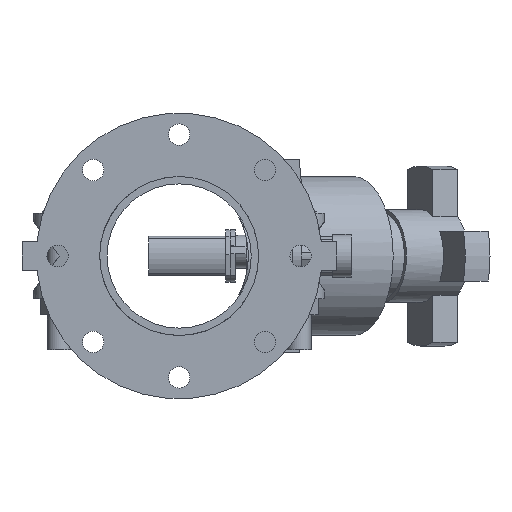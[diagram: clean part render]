
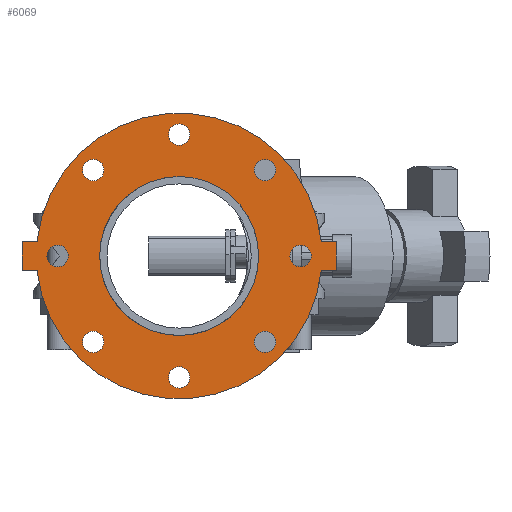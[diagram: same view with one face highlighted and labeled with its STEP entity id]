
A CAD part, front view. The second image highlights one B-rep face of the part: STEP entity #6069.
In plain terms, the highlighted planar face has unit normal (0, -1, 0) as drawn and (0, 0, 1) by its records, which use the part's own axes.
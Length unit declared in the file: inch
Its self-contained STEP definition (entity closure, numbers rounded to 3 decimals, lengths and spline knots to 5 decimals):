
#165=FACE_BOUND('',#771,.T.);
#166=FACE_BOUND('',#772,.T.);
#167=FACE_BOUND('',#773,.T.);
#168=FACE_BOUND('',#774,.T.);
#169=FACE_BOUND('',#775,.T.);
#170=FACE_BOUND('',#776,.T.);
#171=FACE_BOUND('',#777,.T.);
#172=FACE_BOUND('',#778,.T.);
#173=FACE_BOUND('',#779,.T.);
#230=PLANE('',#6592);
#433=FACE_OUTER_BOUND('',#770,.T.);
#770=EDGE_LOOP('',(#3949,#3950,#3951,#3952,#3953,#3954,#3955,#3956));
#771=EDGE_LOOP('',(#3957));
#772=EDGE_LOOP('',(#3958));
#773=EDGE_LOOP('',(#3959));
#774=EDGE_LOOP('',(#3960));
#775=EDGE_LOOP('',(#3961));
#776=EDGE_LOOP('',(#3962));
#777=EDGE_LOOP('',(#3963));
#778=EDGE_LOOP('',(#3964));
#779=EDGE_LOOP('',(#3965,#3966));
#1158=LINE('',#9234,#1622);
#1159=LINE('',#9237,#1623);
#1162=LINE('',#9242,#1626);
#1163=LINE('',#9245,#1627);
#1165=LINE('',#9248,#1629);
#1166=LINE('',#9250,#1630);
#1622=VECTOR('',#7356,0.3937);
#1623=VECTOR('',#7359,0.3937);
#1626=VECTOR('',#7364,0.3937);
#1627=VECTOR('',#7367,0.3937);
#1629=VECTOR('',#7371,0.3937);
#1630=VECTOR('',#7374,0.3937);
#2066=CIRCLE('',#6551,0.375);
#2068=CIRCLE('',#6554,0.375);
#2070=CIRCLE('',#6557,0.375);
#2072=CIRCLE('',#6560,0.375);
#2074=CIRCLE('',#6563,0.375);
#2076=CIRCLE('',#6566,0.375);
#2078=CIRCLE('',#6569,0.375);
#2080=CIRCLE('',#6572,0.375);
#2086=CIRCLE('',#6580,5.);
#2087=CIRCLE('',#6582,2.7815);
#2088=CIRCLE('',#6583,2.7815);
#2089=CIRCLE('',#6585,5.);
#2404=VERTEX_POINT('',#9145);
#2406=VERTEX_POINT('',#9151);
#2408=VERTEX_POINT('',#9157);
#2410=VERTEX_POINT('',#9163);
#2412=VERTEX_POINT('',#9169);
#2414=VERTEX_POINT('',#9175);
#2416=VERTEX_POINT('',#9181);
#2418=VERTEX_POINT('',#9187);
#2430=VERTEX_POINT('',#9214);
#2431=VERTEX_POINT('',#9216);
#2432=VERTEX_POINT('',#9220);
#2433=VERTEX_POINT('',#9222);
#2434=VERTEX_POINT('',#9226);
#2435=VERTEX_POINT('',#9228);
#2436=VERTEX_POINT('',#9232);
#2437=VERTEX_POINT('',#9236);
#2438=VERTEX_POINT('',#9240);
#2439=VERTEX_POINT('',#9244);
#2990=EDGE_CURVE('',#2404,#2404,#2066,.T.);
#2993=EDGE_CURVE('',#2406,#2406,#2068,.T.);
#2996=EDGE_CURVE('',#2408,#2408,#2070,.T.);
#2999=EDGE_CURVE('',#2410,#2410,#2072,.T.);
#3002=EDGE_CURVE('',#2412,#2412,#2074,.T.);
#3005=EDGE_CURVE('',#2414,#2414,#2076,.T.);
#3008=EDGE_CURVE('',#2416,#2416,#2078,.T.);
#3011=EDGE_CURVE('',#2418,#2418,#2080,.T.);
#3026=EDGE_CURVE('',#2430,#2431,#2086,.T.);
#3028=EDGE_CURVE('',#2433,#2432,#2087,.T.);
#3029=EDGE_CURVE('',#2432,#2433,#2088,.T.);
#3031=EDGE_CURVE('',#2435,#2434,#2089,.T.);
#3034=EDGE_CURVE('',#2431,#2436,#1158,.T.);
#3035=EDGE_CURVE('',#2437,#2435,#1159,.T.);
#3038=EDGE_CURVE('',#2434,#2438,#1162,.T.);
#3039=EDGE_CURVE('',#2439,#2430,#1163,.T.);
#3041=EDGE_CURVE('',#2438,#2439,#1165,.T.);
#3042=EDGE_CURVE('',#2436,#2437,#1166,.T.);
#3949=ORIENTED_EDGE('',*,*,#3038,.T.);
#3950=ORIENTED_EDGE('',*,*,#3041,.T.);
#3951=ORIENTED_EDGE('',*,*,#3039,.T.);
#3952=ORIENTED_EDGE('',*,*,#3026,.T.);
#3953=ORIENTED_EDGE('',*,*,#3034,.T.);
#3954=ORIENTED_EDGE('',*,*,#3042,.T.);
#3955=ORIENTED_EDGE('',*,*,#3035,.T.);
#3956=ORIENTED_EDGE('',*,*,#3031,.T.);
#3957=ORIENTED_EDGE('',*,*,#2990,.T.);
#3958=ORIENTED_EDGE('',*,*,#2993,.T.);
#3959=ORIENTED_EDGE('',*,*,#2996,.T.);
#3960=ORIENTED_EDGE('',*,*,#2999,.T.);
#3961=ORIENTED_EDGE('',*,*,#3002,.T.);
#3962=ORIENTED_EDGE('',*,*,#3005,.T.);
#3963=ORIENTED_EDGE('',*,*,#3008,.T.);
#3964=ORIENTED_EDGE('',*,*,#3011,.T.);
#3965=ORIENTED_EDGE('',*,*,#3028,.T.);
#3966=ORIENTED_EDGE('',*,*,#3029,.T.);
#6069=ADVANCED_FACE('',(#433,#165,#166,#167,#168,#169,#170,#171,#172,#173),
#230,.T.);
#6551=AXIS2_PLACEMENT_3D('',#9146,#7264,#7265);
#6554=AXIS2_PLACEMENT_3D('',#9152,#7271,#7272);
#6557=AXIS2_PLACEMENT_3D('',#9158,#7278,#7279);
#6560=AXIS2_PLACEMENT_3D('',#9164,#7285,#7286);
#6563=AXIS2_PLACEMENT_3D('',#9170,#7292,#7293);
#6566=AXIS2_PLACEMENT_3D('',#9176,#7299,#7300);
#6569=AXIS2_PLACEMENT_3D('',#9182,#7306,#7307);
#6572=AXIS2_PLACEMENT_3D('',#9188,#7313,#7314);
#6580=AXIS2_PLACEMENT_3D('',#9218,#7338,#7339);
#6582=AXIS2_PLACEMENT_3D('',#9223,#7343,#7344);
#6583=AXIS2_PLACEMENT_3D('',#9224,#7345,#7346);
#6585=AXIS2_PLACEMENT_3D('',#9229,#7350,#7351);
#6592=AXIS2_PLACEMENT_3D('',#9251,#7375,#7376);
#7264=DIRECTION('center_axis',(0.,0.,-1.));
#7265=DIRECTION('ref_axis',(-0.707,0.707,0.));
#7271=DIRECTION('center_axis',(0.,0.,-1.));
#7272=DIRECTION('ref_axis',(0.,1.,0.));
#7278=DIRECTION('center_axis',(0.,0.,-1.));
#7279=DIRECTION('ref_axis',(0.707,0.707,0.));
#7285=DIRECTION('center_axis',(0.,0.,-1.));
#7286=DIRECTION('ref_axis',(1.,0.,0.));
#7292=DIRECTION('center_axis',(0.,0.,-1.));
#7293=DIRECTION('ref_axis',(0.707,-0.707,0.));
#7299=DIRECTION('center_axis',(0.,0.,-1.));
#7300=DIRECTION('ref_axis',(0.,-1.,0.));
#7306=DIRECTION('center_axis',(0.,0.,-1.));
#7307=DIRECTION('ref_axis',(-0.707,-0.707,0.));
#7313=DIRECTION('center_axis',(0.,0.,-1.));
#7314=DIRECTION('ref_axis',(-1.,0.,0.));
#7338=DIRECTION('center_axis',(0.,0.,1.));
#7339=DIRECTION('ref_axis',(-1.,0.,0.));
#7343=DIRECTION('center_axis',(0.,0.,-1.));
#7344=DIRECTION('ref_axis',(-1.,0.,0.));
#7345=DIRECTION('center_axis',(0.,0.,-1.));
#7346=DIRECTION('ref_axis',(-1.,0.,0.));
#7350=DIRECTION('center_axis',(0.,0.,1.));
#7351=DIRECTION('ref_axis',(-1.,0.,0.));
#7356=DIRECTION('',(0.,1.,0.));
#7359=DIRECTION('',(0.,-1.,0.));
#7364=DIRECTION('',(0.,-1.,0.));
#7367=DIRECTION('',(0.,1.,0.));
#7371=DIRECTION('',(1.,0.,0.));
#7374=DIRECTION('',(-1.,0.,0.));
#7375=DIRECTION('center_axis',(0.,0.,1.));
#7376=DIRECTION('ref_axis',(1.,0.,0.));
#9145=CARTESIAN_POINT('',(-2.74004,2.74004,0.5));
#9146=CARTESIAN_POINT('Origin',(-3.0052,3.0052,0.5));
#9151=CARTESIAN_POINT('',(0.,3.875,0.5));
#9152=CARTESIAN_POINT('Origin',(0.,4.25,0.5));
#9157=CARTESIAN_POINT('',(2.74004,2.74004,0.5));
#9158=CARTESIAN_POINT('Origin',(3.0052,3.0052,0.5));
#9163=CARTESIAN_POINT('',(3.875,0.,0.5));
#9164=CARTESIAN_POINT('Origin',(4.25,0.,0.5));
#9169=CARTESIAN_POINT('',(2.74004,-2.74004,0.5));
#9170=CARTESIAN_POINT('Origin',(3.0052,-3.0052,0.5));
#9175=CARTESIAN_POINT('',(0.,-3.875,0.5));
#9176=CARTESIAN_POINT('Origin',(0.,-4.25,0.5));
#9181=CARTESIAN_POINT('',(-2.74004,-2.74004,0.5));
#9182=CARTESIAN_POINT('Origin',(-3.0052,-3.0052,0.5));
#9187=CARTESIAN_POINT('',(-3.875,0.,0.5));
#9188=CARTESIAN_POINT('Origin',(-4.25,0.,0.5));
#9214=CARTESIAN_POINT('',(0.5,-4.97494,0.5));
#9216=CARTESIAN_POINT('',(0.5,4.97494,0.5));
#9218=CARTESIAN_POINT('Origin',(0.,0.,0.5));
#9220=CARTESIAN_POINT('',(2.7815,0.,0.5));
#9222=CARTESIAN_POINT('',(0.5,2.73619,0.5));
#9223=CARTESIAN_POINT('Origin',(0.,0.,0.5));
#9224=CARTESIAN_POINT('Origin',(0.,0.,0.5));
#9226=CARTESIAN_POINT('',(-0.5,-4.97494,0.5));
#9228=CARTESIAN_POINT('',(-0.5,4.97494,0.5));
#9229=CARTESIAN_POINT('Origin',(0.,0.,0.5));
#9232=CARTESIAN_POINT('',(0.5,5.5,0.5));
#9234=CARTESIAN_POINT('',(0.5,5.5,0.5));
#9236=CARTESIAN_POINT('',(-0.5,5.5,0.5));
#9237=CARTESIAN_POINT('',(-0.5,-5.5,0.5));
#9240=CARTESIAN_POINT('',(-0.5,-5.5,0.5));
#9242=CARTESIAN_POINT('',(-0.5,-5.5,0.5));
#9244=CARTESIAN_POINT('',(0.5,-5.5,0.5));
#9245=CARTESIAN_POINT('',(0.5,5.5,0.5));
#9248=CARTESIAN_POINT('',(0.5,-5.5,0.5));
#9250=CARTESIAN_POINT('',(-0.5,5.5,0.5));
#9251=CARTESIAN_POINT('Origin',(0.,0.,0.5));
